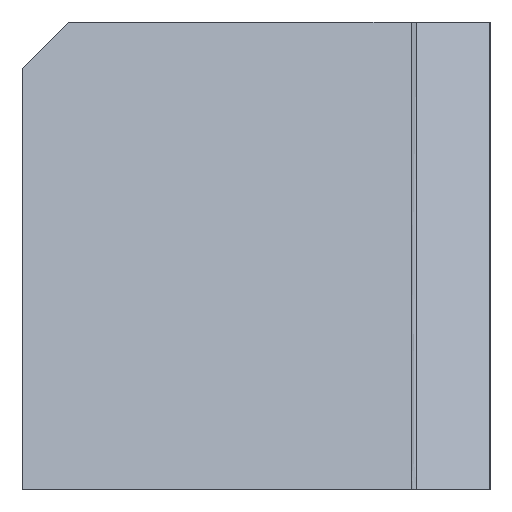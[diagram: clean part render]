
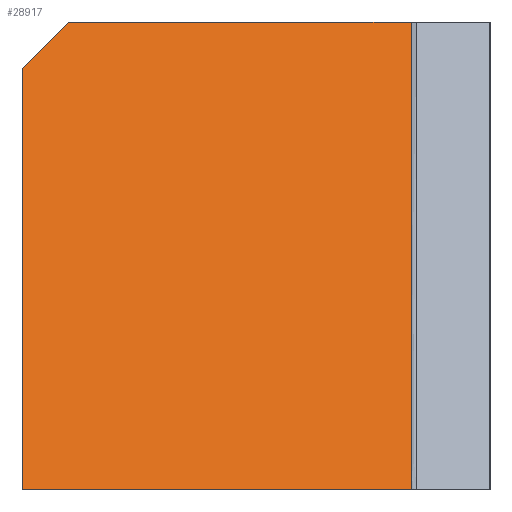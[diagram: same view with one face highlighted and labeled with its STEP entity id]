
A CAD part, left-side view. The second image highlights one B-rep face of the part: STEP entity #28917.
In plain terms, the highlighted planar face has unit normal (-0.943, 0, 0.334).
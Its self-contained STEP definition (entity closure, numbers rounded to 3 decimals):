
#4118=ORIENTED_EDGE('',*,*,#12986,.F.);
#4119=ORIENTED_EDGE('',*,*,#12987,.T.);
#4120=ORIENTED_EDGE('',*,*,#10447,.F.);
#4121=ORIENTED_EDGE('',*,*,#12988,.F.);
#4122=ORIENTED_EDGE('',*,*,#11783,.F.);
#10447=EDGE_CURVE('',#14881,#14882,#17813,.T.);
#11783=EDGE_CURVE('',#16216,#16218,#18713,.T.);
#12986=EDGE_CURVE('',#17420,#16216,#19516,.T.);
#12987=EDGE_CURVE('',#17420,#14882,#19517,.T.);
#12988=EDGE_CURVE('',#16218,#14881,#19518,.T.);
#14881=VERTEX_POINT('',#40244);
#14882=VERTEX_POINT('',#40245);
#16216=VERTEX_POINT('',#43457);
#16218=VERTEX_POINT('',#43460);
#17420=VERTEX_POINT('',#45866);
#17813=LINE('',#40243,#21289);
#18713=LINE('',#43459,#22189);
#19516=LINE('',#45865,#22992);
#19517=LINE('',#45867,#22993);
#19518=LINE('',#45868,#22994);
#21289=VECTOR('',#32423,1000.);
#22189=VECTOR('',#34129,1000.);
#22992=VECTOR('',#35734,1000.);
#22993=VECTOR('',#35735,1000.);
#22994=VECTOR('',#35736,1000.);
#24713=EDGE_LOOP('',(#4118,#4119,#4120,#4121,#4122));
#26307=FACE_BOUND('',#24713,.T.);
#27861=PLANE('',#31267);
#28917=ADVANCED_FACE('',(#26307),#27861,.T.);
#31267=AXIS2_PLACEMENT_3D('',#45864,#35732,#35733);
#32423=DIRECTION('',(0.,1.,0.));
#34129=DIRECTION('',(0.,-1.,0.));
#35732=DIRECTION('',(-0.942,0.,0.334));
#35733=DIRECTION('',(0.,1.,0.));
#35734=DIRECTION('',(0.243,-0.686,0.686));
#35735=DIRECTION('',(-0.334,0.,-0.942));
#35736=DIRECTION('',(-0.334,0.,-0.942));
#40243=CARTESIAN_POINT('',(-7.094,0.,-20.));
#40244=CARTESIAN_POINT('',(-7.094,-16.625,-20.));
#40245=CARTESIAN_POINT('',(-7.094,0.,-20.));
#43457=CARTESIAN_POINT('',(0.,-2.,0.));
#43459=CARTESIAN_POINT('',(0.,0.,0.));
#43460=CARTESIAN_POINT('',(0.,-16.625,0.));
#45864=CARTESIAN_POINT('',(0.,-16.625,0.));
#45865=CARTESIAN_POINT('',(1.09,-5.074,3.074));
#45866=CARTESIAN_POINT('',(-0.709,0.,-2.));
#45867=CARTESIAN_POINT('',(0.,0.,0.));
#45868=CARTESIAN_POINT('',(0.,-16.625,0.));
